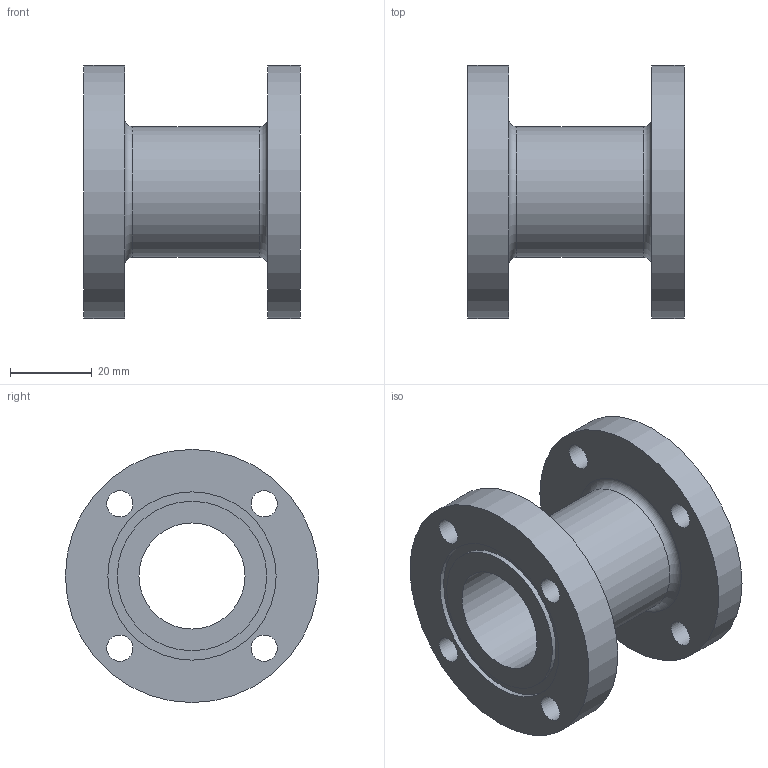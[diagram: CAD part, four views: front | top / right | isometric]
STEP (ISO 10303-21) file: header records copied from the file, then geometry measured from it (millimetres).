
FILE_DESCRIPTION(/* description */ (''),/* implementation_level */ '2;1');
FILE_NAME(/* name */ 'P:\Adapter\Adaptersätze für die Montage der ESK-Regulatoren\BI-BI-Adapter.stp',/* time_stamp */ '2019-04-01T12:53:38+02:00',/* author */ ('neufeld'),/* organization */ (''),/* preprocessor_version */ 'ST-DEVELOPER v17',/* originating_system */ 'Autodesk Inventor 2019',/* authorisation */ '');
FILE_SCHEMA (('AUTOMOTIVE_DESIGN { 1 0 10303 214 3 1 1 }'));
Length unit declared in the file: millimetre
Products named in the file (1): BI-BI
Bounding box: 53 x 62 x 62 mm (x, y, z)
Volume: 51862.5 mm3; surface area: 21829.1 mm2
Topology: 1 solids, 1 shells, 22 faces, 62 edges, 46 vertices
Faces by surface type: cylinder 14, plane 6, torus 2
Full cylindrical faces by diameter (mm): 6.4 x8, 26 x1, 32 x1, 36.6 x1, 41.2 x1, 62 x2
Entity records: 841 total; most frequent: DIRECTION 156, CARTESIAN_POINT 131, ORIENTED_EDGE 124, AXIS2_PLACEMENT_3D 71, EDGE_CURVE 62, CIRCLE 48, VERTEX_POINT 46, EDGE_LOOP 44
